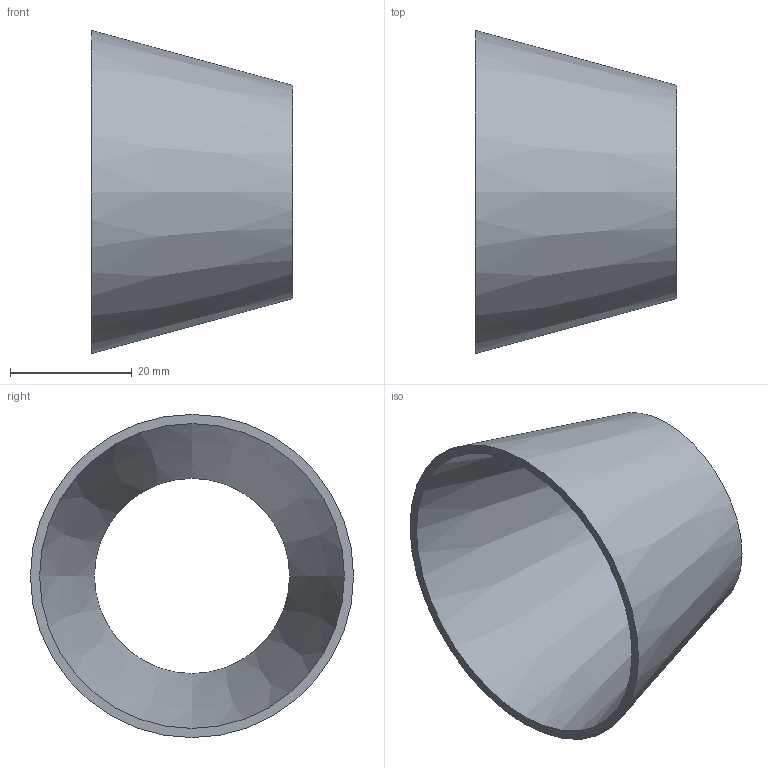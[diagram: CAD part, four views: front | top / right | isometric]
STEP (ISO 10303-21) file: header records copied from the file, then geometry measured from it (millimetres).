
FILE_DESCRIPTION(('FreeCAD Model'),'2;1');
FILE_NAME( '/home/martin/Documents/proyect/accesorios/stp/red-con_DN50-32.step', '2017-12-31T12:23:15',('Author'),(''), 'Open CASCADE STEP processor 6.8','FreeCAD','Unknown');
FILE_SCHEMA(('AUTOMOTIVE_DESIGN_CC2 { 1 2 10303 214 -1 1 5 4 }'));
Length unit declared in the file: millimetre
Products named in the file (1): red-con_DN50-32
Bounding box: 33 x 53 x 53 mm (x, y, z)
Volume: 6609.1 mm3; surface area: 9534.6 mm2
Topology: 1 solids, 1 shells, 4 faces, 6 edges, 4 vertices
Faces by surface type: cone 2, plane 2
Entity records: 191 total; most frequent: CARTESIAN_POINT 33, DIRECTION 26, ORIENTED_EDGE 12, PCURVE 12, DEFINITIONAL_REPRESENTATION 12, AXIS2_PLACEMENT_3D 9, CIRCLE 8, FACE_BOUND 6
